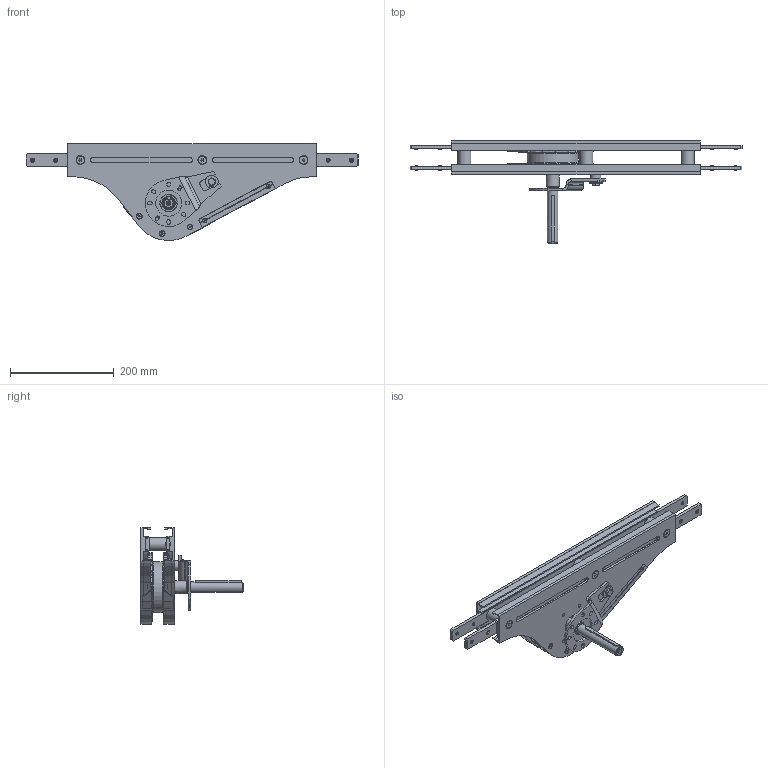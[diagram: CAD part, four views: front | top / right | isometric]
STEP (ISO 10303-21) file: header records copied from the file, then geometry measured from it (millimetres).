
FILE_DESCRIPTION(/* description */ ('Mittenantriebseinheit, FL, heavy, ohne Rutschkupplung, links, geschlossen, direkt'),/* implementation_level */ '2;1');
FILE_NAME(/* name */ 'T:\vdz0\Step Daten Website\modulflex FL-System\Antriebseinheiten rechts - links\FLER_HNLGP-60131.stp',/* time_stamp */ '2024-08-21T11:07:07+02:00',/* author */ ('vdz0'),/* organization */ ('MAG'),/* preprocessor_version */ 'ST-DEVELOPER v18.1',/* originating_system */ 'Autodesk Inventor 2021',/* authorisation */ '');
FILE_SCHEMA (('CONFIG_CONTROL_DESIGN'));
Length unit declared in the file: millimetre
Products named in the file (1): FLER_HNLGP-60131
Bounding box: 640 x 197.66 x 186.96 mm (x, y, z)
Volume: 1568389.8 mm3; surface area: 526476.9 mm2
Topology: 21 solids, 48 shells, 1730 faces, 4637 edges, 3004 vertices
Faces by surface type: plane 852, cylinder 649, cone 160, torus 47, sphere 18, bspline 4
Full cylindrical faces by diameter (mm): 2 x4, 4 x8, 4.917 x2, 5 x14, 5.5 x6, 5.6 x6, 6.647 x20, 7.323 x1, 8 x12, 8.1 x1, 8.5 x6, 9.43 x6, 11.4 x1, 12 x2, 12.1 x1, 14 x12, 15.24 x6, 16 x2, 20 x2, 25 x4, 32.172 x4, 34 x2, 39.828 x4, 40 x4, 47 x4, 50 x1, 70 x2, 98 x1
Entity records: 57072 total; most frequent: CARTESIAN_POINT 10576, DIRECTION 9648, ORIENTED_EDGE 9206, EDGE_CURVE 4603, AXIS2_PLACEMENT_3D 3528, VERTEX_POINT 3076, LINE 2592, VECTOR 2592
